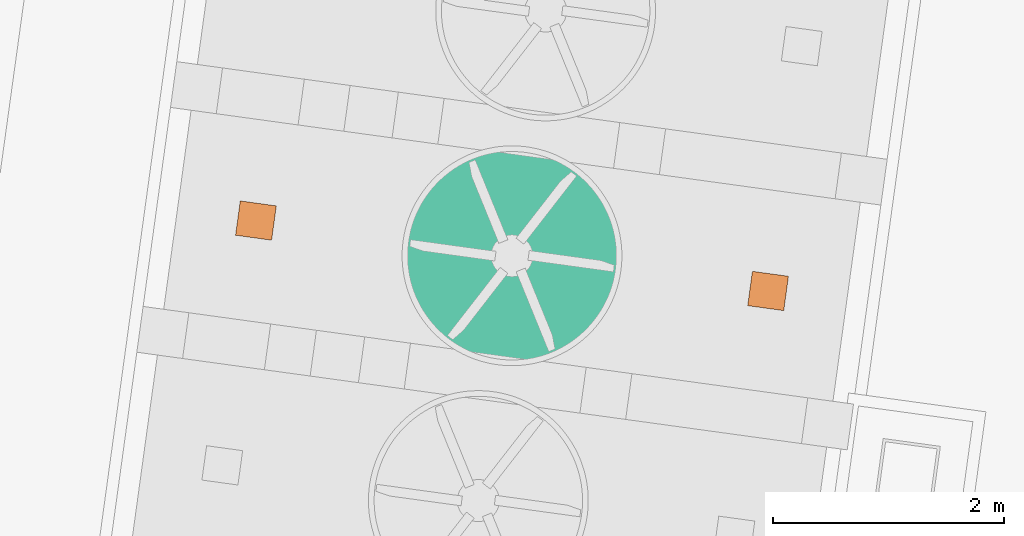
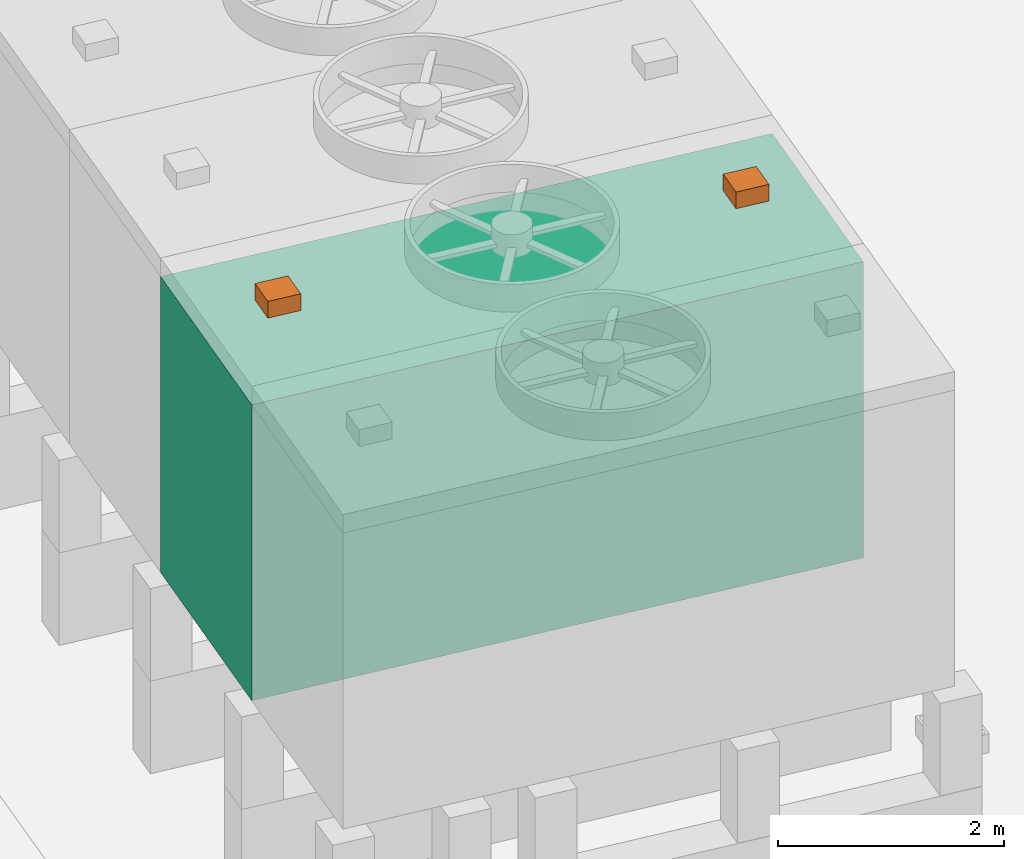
# Not in any storey, part 38 of 75: 2 proxies, 1 cooling tower.
"""IFC4 model written with IfcOpenShell, lengths in metres."""

import ifcopenshell
import ifcopenshell.guid

model = None  # the IFC model being written
_history = None  # IfcOwnerHistory: only IFC2X3 demands one
_inside = {}  # id of a spatial element -> (the spatial element, [elements in it])
_under = {}  # id of a project, library or spatial element -> (it, [spatial elements below it])
_declared = {}  # id of a project -> (the project, [libraries it declares])
_typed = {}  # id of a type object -> (the type object, [elements of that type])
_made_of = {}  # id of a material, layer set ... -> (it, [elements and type objects made of it])


def new_model(schema):
    """Start an empty IFC model of exactly this schema.

    Asked for "IFC4X3", IfcOpenShell would pick the latest addendum, in which some entities
    have other attributes; the version numbers below select the first issue.
    IFC2X3 requires an IfcOwnerHistory on every rooted entity: one is made here for all.
    """
    global model, _history
    if schema == "IFC4X3":
        model = ifcopenshell.file(schema_version=(4, 3, 0, 0))
    else:
        model = ifcopenshell.file(schema=schema)
    _inside.clear()
    _under.clear()
    _declared.clear()
    _typed.clear()
    _made_of.clear()
    _history = None
    if model.schema == "IFC2X3":
        org = make("IfcOrganization", Name="unknown")
        user = make(
            "IfcPersonAndOrganization",
            ThePerson=make("IfcPerson", FamilyName="unknown"),
            TheOrganization=org,
        )
        app = make(
            "IfcApplication",
            ApplicationDeveloper=org,
            Version="unknown",
            ApplicationFullName="unknown",
            ApplicationIdentifier="unknown",
        )
        _history = make(
            "IfcOwnerHistory",
            OwningUser=user,
            OwningApplication=app,
            ChangeAction="ADDED",
            CreationDate=0,
        )
    return model


def make(cls, **values):
    """One entity of the class cls with the attributes given. An attribute that is None is left unset."""
    return model.create_entity(
        cls, **{name: value for name, value in values.items() if value is not None}
    )


def rooted(cls, **values):
    """An entity with a GlobalId (a new one), such as an element, a storey or a relation."""
    return make(cls, GlobalId=ifcopenshell.guid.new(), OwnerHistory=_history, **values)


def si_unit(unit_type, name, prefix=None):
    """IfcSIUnit, for example si_unit("LENGTHUNIT", "METRE", prefix="MILLI")."""
    return make("IfcSIUnit", UnitType=unit_type, Prefix=prefix, Name=name)


def assignment(units):
    """IfcUnitAssignment: the units of a project."""
    return None if units is None else make("IfcUnitAssignment", Units=units)


def point(xyz):
    """IfcCartesianPoint."""
    return None if xyz is None else make("IfcCartesianPoint", Coordinates=xyz)


def direction(xyz):
    """IfcDirection."""
    return None if xyz is None else make("IfcDirection", DirectionRatios=xyz)


def frame(location, z_axis=None, x_axis=None):
    """IfcAxis2Placement3D, a coordinate frame: its origin and axes. An axis left out is left unset."""
    return make(
        "IfcAxis2Placement3D",
        Location=point(location),
        Axis=direction(z_axis),
        RefDirection=direction(x_axis),
    )


def origin_with_axes():
    """The frame at (0, 0, 0) with the z axis (0, 0, 1) and the x axis (1, 0, 0) written out."""
    return frame((0.0, 0.0, 0.0), z_axis=(0.0, 0.0, 1.0), x_axis=(1.0, 0.0, 0.0))


def place(relative_to, where):
    """IfcLocalPlacement: puts the frame where relative to a parent placement (None: the world)."""
    return make(
        "IfcLocalPlacement", PlacementRelTo=relative_to, RelativePlacement=where
    )


def context(
    kind, dimensions, precision=None, world=None, true_north=None, identifier=None
):
    """IfcGeometricRepresentationContext, for example the 3D "Model" context."""
    return make(
        "IfcGeometricRepresentationContext",
        ContextIdentifier=identifier,
        ContextType=kind,
        CoordinateSpaceDimension=dimensions,
        Precision=precision,
        WorldCoordinateSystem=world,
        TrueNorth=true_north,
    )


def subcontext(parent, identifier, kind, view, scale=None):
    """IfcGeometricRepresentationSubContext, for example "Body" below "Model"."""
    return make(
        "IfcGeometricRepresentationSubContext",
        ContextIdentifier=identifier,
        ContextType=kind,
        ParentContext=parent,
        TargetScale=scale,
        TargetView=view,
    )


def project(units=None, contexts=None):
    """IfcProject with its units and contexts."""
    return rooted(
        "IfcProject",
        Name="project",
        RepresentationContexts=contexts,
        UnitsInContext=assignment(units),
    )


def spatial(cls, under=None, at=None, **own):
    """A site, building, storey or space (cls), placed at a placement, below another one or the project."""
    s = rooted(cls, ObjectPlacement=at, **own)
    if under is not None:
        _under.setdefault(under.id(), (under, []))[1].append(s)
    return s


def point_list(points):
    """IfcCartesianPointList2D or 3D."""
    cls = (
        "IfcCartesianPointList2D" if len(points[0]) == 2 else "IfcCartesianPointList3D"
    )
    return make(cls, CoordList=points)


def triangles(points, corners, closed=None, point_numbers=None):
    """IfcTriangulatedFaceSet: each triangle names its three corners, points numbered from 1."""
    return make(
        "IfcTriangulatedFaceSet",
        Coordinates=point_list(points),
        Closed=closed,
        CoordIndex=corners,
        PnIndex=point_numbers,
    )


def shape(context_of_items, identifier, shape_type, items):
    """IfcShapeRepresentation: the items that make up one representation, for example the "Body"."""
    return make(
        "IfcShapeRepresentation",
        ContextOfItems=context_of_items,
        RepresentationIdentifier=identifier,
        RepresentationType=shape_type,
        Items=items,
    )


def made_of(thing, what):
    """Note that an element or type object is made of a material, layer set ...; save() writes the relation."""
    if what is not None:
        _made_of.setdefault(what.id(), (what, []))[1].append(thing)
    return thing


def element(
    cls,
    number,
    at=None,
    inside=None,
    cuts=None,
    type_object=None,
    material=None,
    context=None,
    identifier="Body",
    shape_type=None,
    held_by="IfcProductDefinitionShape",
    body=None,
    shapes=None,
    **own,
):
    """One element of the class cls, such as IfcWall. Its Tag is "e" and its number.

    at: its placement. inside: the storey or other place that contains it. cuts: it is an
    opening in that element (IfcRelVoidsElement). A single representation is given by context,
    identifier, shape_type and body (its items); several are given by shapes. held_by: the class
    of the entity that holds the representations. save() writes the other relations.
    """
    e = rooted(cls, Tag="e%d" % number, ObjectPlacement=at, **own)
    if body is not None:
        shapes = [shape(context, identifier, shape_type, body)]
    if shapes is not None:
        e.Representation = make(held_by, Representations=shapes)
    if inside is not None:
        _inside.setdefault(inside.id(), (inside, []))[1].append(e)
    if cuts is not None:
        rooted(
            "IfcRelVoidsElement", RelatingBuildingElement=cuts, RelatedOpeningElement=e
        )
    if type_object is not None:
        _typed.setdefault(type_object.id(), (type_object, []))[1].append(e)
    return made_of(e, material)


def aggregate(whole, parts):
    """IfcRelAggregates: a whole, such as a stair, and the parts it consists of."""
    return rooted("IfcRelAggregates", RelatingObject=whole, RelatedObjects=parts)


def save(model, path):
    """Write the relations noted so far, then the file.

    IfcRelAggregates (storeys below a building ...), IfcRelContainedInSpatialStructure (elements
    in a storey), IfcRelDefinesByType, IfcRelAssociatesMaterial and IfcRelDeclares: one each for
    every whole, place, type object, material and project.
    """
    for whole, parts in _under.values():
        aggregate(whole, parts)
    for where, things in _inside.values():
        rooted(
            "IfcRelContainedInSpatialStructure",
            RelatedElements=things,
            RelatingStructure=where,
        )
    for kind, things in _typed.values():
        rooted("IfcRelDefinesByType", RelatedObjects=things, RelatingType=kind)
    for what, things in _made_of.values():
        rooted("IfcRelAssociatesMaterial", RelatedObjects=things, RelatingMaterial=what)
    for by, libraries in _declared.values():
        rooted("IfcRelDeclares", RelatingContext=by, RelatedDefinitions=libraries)
    model.write(path)


model = new_model("IFC4")

# Units and contexts
model_context = context("Model", 3, precision=1e-05, world=origin_with_axes(), true_north=direction((0.0, 1.0)))
body_context = subcontext(model_context, "Body", "Model", "MODEL_VIEW")
ifc_project = project(units=[si_unit("AREAUNIT", "SQUARE_METRE"), si_unit("VOLUMEUNIT", "CUBIC_METRE"), si_unit("LENGTHUNIT", "METRE")], contexts=[model_context])

# Site
site_placement = place(None, origin_with_axes())
site = spatial("IfcSite", under=ifc_project, at=site_placement, Name="Parcela industrial Jinhong")

# Cooling tower, proxies
cooling_tower_placement = place(site_placement, origin_with_axes())
cooling_tower = element("IfcCoolingTower", 1, at=cooling_tower_placement, inside=site, Name="Torre de refrigeración WT3001C · Envolvente del cuerpo de la torre", ObjectType="Envolvente de equipo", PredefinedType="USERDEFINED", context=body_context, shape_type="Tessellation", body=[
    triangles([(41.948887, 44.224235, 6.3), (36.44488, 47.141085, 6.3), (36.153404, 45.021028, 6.3), (36.44488, 47.141085, 3.1), (41.948887, 44.224235, 3.1), (36.153404, 45.021028, 3.1), (42.240363, 46.344292, 6.3), (42.240363, 46.344292, 3.1)], [[1, 2, 3], [4, 5, 6], [1, 7, 2], [5, 4, 8], [5, 8, 7], [5, 7, 1], [8, 4, 2], [7, 8, 2], [3, 4, 6], [4, 3, 2], [6, 5, 1], [3, 6, 1]], closed=True),
])
proxy_1_placement = place(cooling_tower_placement, origin_with_axes())
proxy_1 = element("IfcBuildingElementProxy", 2, at=proxy_1_placement, Name="Torre de refrigeración WT3001C · Montaje lateral indicado en planta", context=body_context, shape_type="Tessellation", body=[
    triangles([(37.155708, 46.114702, 6.68), (36.843643, 46.157607, 6.68), (37.114847, 45.817498, 6.68), (36.843643, 46.157607, 6.5), (37.155708, 46.114702, 6.5), (37.114847, 45.817498, 6.5), (36.802782, 45.860402, 6.68), (36.802782, 45.860402, 6.5)], [[1, 2, 3], [4, 5, 6], [2, 7, 3], [6, 8, 4], [7, 4, 8], [4, 7, 2], [8, 6, 3], [7, 8, 3], [5, 1, 6], [1, 3, 6], [5, 4, 2], [5, 2, 1]], closed=True),
])
proxy_2_placement = place(cooling_tower_placement, origin_with_axes())
proxy_2 = element("IfcBuildingElementProxy", 3, at=proxy_2_placement, Name="Torre de refrigeración WT3001C · Montaje lateral indicado en planta", context=body_context, shape_type="Tessellation", body=[
    triangles([(41.590985, 45.504918, 6.68), (41.238059, 45.250617, 6.68), (41.550124, 45.207713, 6.68), (41.238059, 45.250617, 6.5), (41.590985, 45.504918, 6.5), (41.550124, 45.207713, 6.5), (41.27892, 45.547822, 6.68), (41.27892, 45.547822, 6.5)], [[1, 2, 3], [4, 5, 6], [2, 1, 7], [4, 8, 5], [7, 5, 8], [5, 7, 1], [4, 2, 8], [8, 2, 7], [3, 4, 6], [4, 3, 2], [5, 1, 6], [1, 3, 6]], closed=True),
])
aggregate(cooling_tower, [proxy_1, proxy_2])

save(model, "model.ifc")
